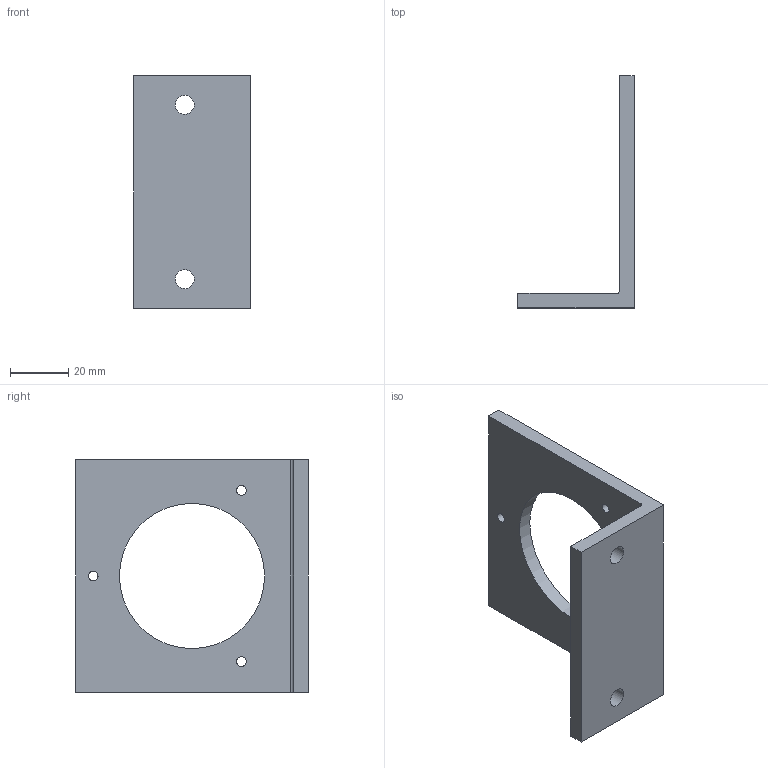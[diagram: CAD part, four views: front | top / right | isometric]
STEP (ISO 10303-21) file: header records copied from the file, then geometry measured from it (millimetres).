
FILE_DESCRIPTION (( 'STEP AP214' ), '1' );
FILE_NAME ('168204 Montagewinkel.STEP', '2012-06-19T13:00:22', ( 'Camille Bauer AG' ), ( '' ), 'SwSTEP 2.0', 'SolidWorks 2010', '' );
FILE_SCHEMA (( 'AUTOMOTIVE_DESIGN' ));
Length unit declared in the file: millimetre
Products named in the file (1): 168204 Montagewinkel
Bounding box: 40 x 80 x 80 mm (x, y, z)
Volume: 35739.6 mm3; surface area: 17350.2 mm2
Topology: 1 solids, 1 shells, 15 faces, 42 edges, 29 vertices
Faces by surface type: plane 8, cylinder 7
Full cylindrical faces by diameter (mm): 3.3 x3, 6.5 x2, 50 x1
Entity records: 528 total; most frequent: DIRECTION 79, CARTESIAN_POINT 75, ORIENTED_EDGE 66, EDGE_CURVE 33, EDGE_LOOP 33, AXIS2_PLACEMENT_3D 30, VERTEX_POINT 26, FACE_OUTER_BOUND 21
